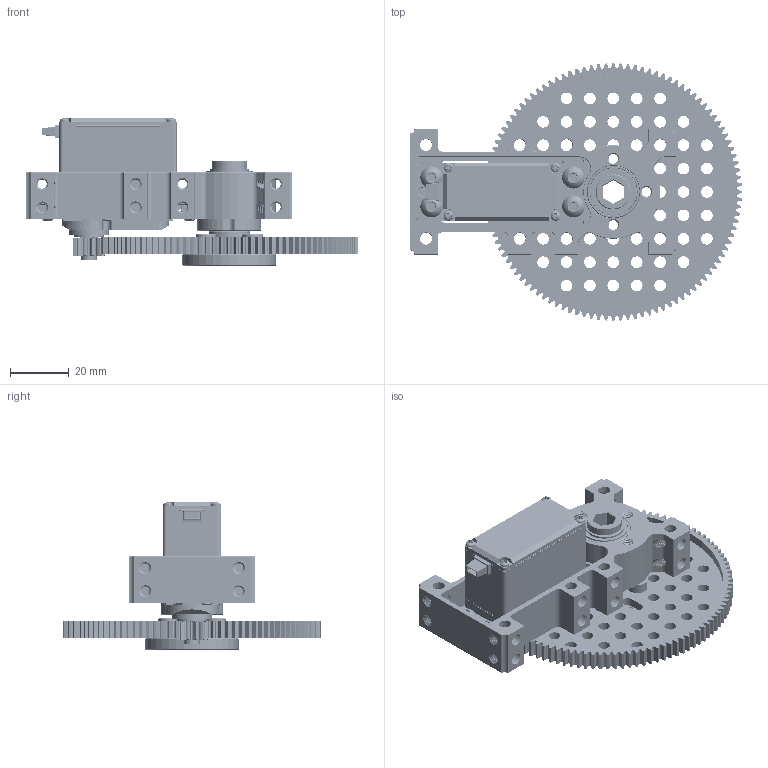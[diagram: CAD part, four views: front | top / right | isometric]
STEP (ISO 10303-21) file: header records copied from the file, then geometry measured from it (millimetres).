
FILE_DESCRIPTION (( 'STEP AP203' ), '1' );
FILE_NAME ('3216-0002-0009 assembly.STEP', '2022-03-22T18:37:56', ( '' ), ( '' ), 'SwSTEP 2.0', 'SolidWorks 2016', '' );
FILE_SCHEMA (( 'CONFIG_CONTROL_DESIGN' ));
Products named in the file (18): 1803-0043-0001; case screw (.71 shank)_90272A075; 2110-0012-0001 Snap-Ring REV1; 2302-0014-0108; 1600-0418-0012; Hitec HSRM9382TH; 3216-0002-0009 assembly; top case screw head_90272A075; 2305-0025-0012_Gear Blank; 2110-0012-0001 Shim; 2110-0012-0001 Shaft REV1; H25T metal spline; 2800-0004-0007_90128A207; 91290A113_BLACK-OXIDE SOCKET HEAD CAP SCREW (M3 x 8mm)_91290A113; 2802-0004-0008_92095A480; rubber grommet for twisted lead; 3216 Series Sub-Assembly; HSRM9382TH Case
Assembly tree (28 placements, depth 4):
  3216-0002-0009 assembly
    3216 Series Sub-Assembly
      1803-0043-0001
      2110-0012-0001 Shaft REV1
      1600-0418-0012  x2
      2802-0004-0008_92095A480  x4
      2800-0004-0007_90128A207  x4
      2110-0012-0001 Snap-Ring REV1
      2110-0012-0001 Shim
      Hitec HSRM9382TH
        case screw (.71 shank)_90272A075  x4
        top case screw head_90272A075  x2
        rubber grommet for twisted lead
        H25T metal spline
        HSRM9382TH Case
      91290A113_BLACK-OXIDE SOCKET HEAD CAP SCREW (M3 x 8mm)_91290A113
    2302-0014-0108
    2305-0025-0012_Gear Blank
Bounding box: 113.5 x 88 x 50.57 mm (x, y, z)
Volume: 74016.8 mm3; surface area: 54147.9 mm2
Topology: 30 solids, 32 shells, 7399 faces, 20519 edges, 13272 vertices
Faces by surface type: cylinder 3487, bspline 1708, plane 1340, cone 561, torus 235, sphere 68
Entity records: 859739 total; most frequent: CARTESIAN_POINT 705927, ORIENTED_EDGE 37838, DIRECTION 24430, EDGE_CURVE 18919, VERTEX_POINT 12286, AXIS2_PLACEMENT_3D 8789, EDGE_LOOP 7211, LINE 6852
